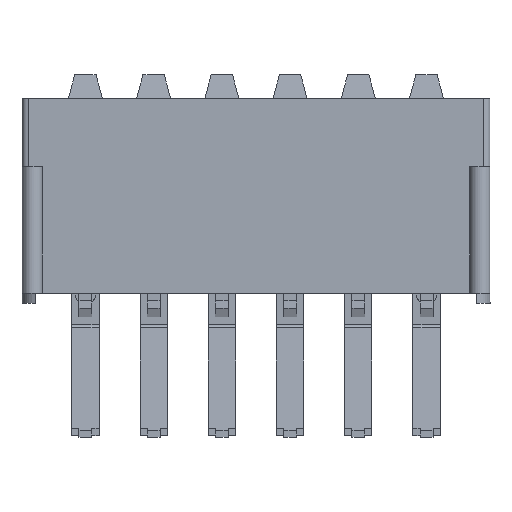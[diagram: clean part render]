
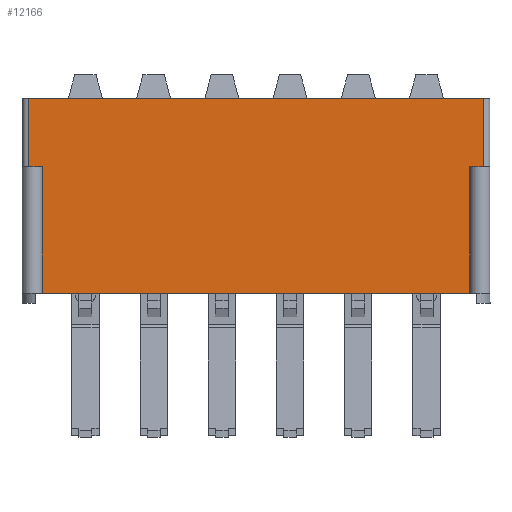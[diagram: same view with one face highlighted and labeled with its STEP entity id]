
A CAD part, front view. The second image highlights one B-rep face of the part: STEP entity #12166.
In plain terms, the highlighted planar face has unit normal (0, -1, 0).
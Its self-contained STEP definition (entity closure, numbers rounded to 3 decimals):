
#109 = CARTESIAN_POINT ( 'NONE',  ( 16.662, -9.652, -2.54 ) ) ;
#1297 = DIRECTION ( 'NONE',  ( 0., 0., 1. ) ) ;
#1592 = VECTOR ( 'NONE', #11184, 1000. ) ;
#1677 = CARTESIAN_POINT ( 'NONE',  ( 0.25, -9.652, -2.54 ) ) ;
#1729 = CARTESIAN_POINT ( 'NONE',  ( 0.762, -9.652, -7.239 ) ) ;
#2610 = EDGE_CURVE ( 'NONE', #23763, #7527, #14300, .T. ) ;
#3022 = VECTOR ( 'NONE', #1297, 1000. ) ;
#3173 = LINE ( 'NONE', #19609, #3022 ) ;
#4356 = EDGE_LOOP ( 'NONE', ( #12833, #8266, #4972, #14298, #8007, #18445, #20606, #12013 ) ) ;
#4797 = DIRECTION ( 'NONE',  ( 0., 0., -1. ) ) ;
#4972 = ORIENTED_EDGE ( 'NONE', *, *, #16163, .F. ) ;
#5040 = CARTESIAN_POINT ( 'NONE',  ( 0.25, -9.652, -2.54 ) ) ;
#6365 = VECTOR ( 'NONE', #4797, 1000. ) ;
#7286 = CARTESIAN_POINT ( 'NONE',  ( 0.25, -9.652, -2.54 ) ) ;
#7527 = VERTEX_POINT ( 'NONE', #25687 ) ;
#8007 = ORIENTED_EDGE ( 'NONE', *, *, #22121, .T. ) ;
#8266 = ORIENTED_EDGE ( 'NONE', *, *, #2610, .T. ) ;
#8810 = DIRECTION ( 'NONE',  ( 0., 0., -1. ) ) ;
#8985 = VERTEX_POINT ( 'NONE', #21560 ) ;
#10708 = CARTESIAN_POINT ( 'NONE',  ( 0.762, -9.652, -2.54 ) ) ;
#10721 = VERTEX_POINT ( 'NONE', #7286 ) ;
#11184 = DIRECTION ( 'NONE',  ( 1., 0., 0. ) ) ;
#11301 = AXIS2_PLACEMENT_3D ( 'NONE', #12814, #18818, #8810 ) ;
#11656 = VERTEX_POINT ( 'NONE', #12759 ) ;
#11812 = VERTEX_POINT ( 'NONE', #10708 ) ;
#12013 = ORIENTED_EDGE ( 'NONE', *, *, #24337, .F. ) ;
#12166 = ADVANCED_FACE ( 'NONE', ( #16546 ), #22810, .T. ) ;
#12219 = VERTEX_POINT ( 'NONE', #109 ) ;
#12270 = EDGE_CURVE ( 'NONE', #8985, #11656, #23608, .T. ) ;
#12759 = CARTESIAN_POINT ( 'NONE',  ( 17.174, -9.652, 0. ) ) ;
#12814 = CARTESIAN_POINT ( 'NONE',  ( 0.25, -9.652, -7.239 ) ) ;
#12833 = ORIENTED_EDGE ( 'NONE', *, *, #16618, .T. ) ;
#13499 = CARTESIAN_POINT ( 'NONE',  ( 0.25, -9.652, -7.239 ) ) ;
#13626 = DIRECTION ( 'NONE',  ( 0., 0., 1. ) ) ;
#14298 = ORIENTED_EDGE ( 'NONE', *, *, #20123, .T. ) ;
#14300 = LINE ( 'NONE', #16041, #25468 ) ;
#14317 = CARTESIAN_POINT ( 'NONE',  ( 17.174, -9.652, -2.54 ) ) ;
#15923 = LINE ( 'NONE', #19800, #18705 ) ;
#16041 = CARTESIAN_POINT ( 'NONE',  ( 0.25, -9.652, -7.239 ) ) ;
#16163 = EDGE_CURVE ( 'NONE', #12219, #7527, #15923, .T. ) ;
#16546 = FACE_OUTER_BOUND ( 'NONE', #4356, .T. ) ;
#16618 = EDGE_CURVE ( 'NONE', #11812, #23763, #17328, .T. ) ;
#16979 = VECTOR ( 'NONE', #13626, 1000. ) ;
#17328 = LINE ( 'NONE', #23071, #6365 ) ;
#17329 = CARTESIAN_POINT ( 'NONE',  ( 0.25, -9.652, 0. ) ) ;
#17962 = VECTOR ( 'NONE', #25599, 1000. ) ;
#18445 = ORIENTED_EDGE ( 'NONE', *, *, #12270, .F. ) ;
#18705 = VECTOR ( 'NONE', #25939, 1000. ) ;
#18818 = DIRECTION ( 'NONE',  ( 0., -1., 0. ) ) ;
#19207 = DIRECTION ( 'NONE',  ( 1., 0., 0. ) ) ;
#19609 = CARTESIAN_POINT ( 'NONE',  ( 17.174, -9.652, -7.239 ) ) ;
#19800 = CARTESIAN_POINT ( 'NONE',  ( 16.662, -9.652, -2.54 ) ) ;
#19971 = LINE ( 'NONE', #1677, #17962 ) ;
#20123 = EDGE_CURVE ( 'NONE', #12219, #21725, #23319, .T. ) ;
#20606 = ORIENTED_EDGE ( 'NONE', *, *, #20827, .F. ) ;
#20827 = EDGE_CURVE ( 'NONE', #10721, #8985, #25901, .T. ) ;
#21560 = CARTESIAN_POINT ( 'NONE',  ( 0.25, -9.652, 0. ) ) ;
#21725 = VERTEX_POINT ( 'NONE', #14317 ) ;
#22121 = EDGE_CURVE ( 'NONE', #21725, #11656, #3173, .T. ) ;
#22810 = PLANE ( 'NONE',  #11301 ) ;
#23071 = CARTESIAN_POINT ( 'NONE',  ( 0.762, -9.652, -2.54 ) ) ;
#23319 = LINE ( 'NONE', #5040, #1592 ) ;
#23608 = LINE ( 'NONE', #17329, #24513 ) ;
#23763 = VERTEX_POINT ( 'NONE', #1729 ) ;
#24050 = DIRECTION ( 'NONE',  ( 1., 0., 0. ) ) ;
#24337 = EDGE_CURVE ( 'NONE', #11812, #10721, #19971, .T. ) ;
#24513 = VECTOR ( 'NONE', #19207, 1000. ) ;
#25468 = VECTOR ( 'NONE', #24050, 1000. ) ;
#25599 = DIRECTION ( 'NONE',  ( -1., 0., 0. ) ) ;
#25687 = CARTESIAN_POINT ( 'NONE',  ( 16.662, -9.652, -7.239 ) ) ;
#25901 = LINE ( 'NONE', #13499, #16979 ) ;
#25939 = DIRECTION ( 'NONE',  ( 0., 0., -1. ) ) ;
